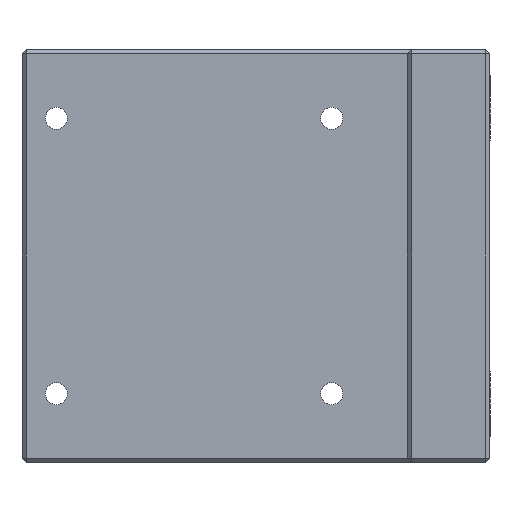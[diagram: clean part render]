
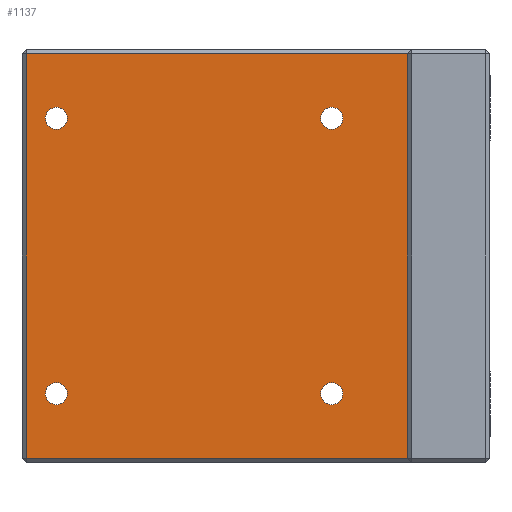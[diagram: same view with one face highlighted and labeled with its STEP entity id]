
A CAD part, left-side view. The second image highlights one B-rep face of the part: STEP entity #1137.
In plain terms, the highlighted planar face has unit normal (-1, 0, 0).
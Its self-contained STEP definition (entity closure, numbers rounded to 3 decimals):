
#11 = VERTEX_POINT ( 'NONE', #745 ) ;
#24 = CIRCLE ( 'NONE', #378, 0.8 ) ;
#52 = ORIENTED_EDGE ( 'NONE', *, *, #664, .T. ) ;
#53 = EDGE_CURVE ( 'NONE', #1014, #663, #1289, .T. ) ;
#73 = DIRECTION ( 'NONE',  ( 0., 1., 0. ) ) ;
#75 = EDGE_LOOP ( 'NONE', ( #954, #52, #1165, #1103 ) ) ;
#89 = ORIENTED_EDGE ( 'NONE', *, *, #946, .T. ) ;
#112 = CIRCLE ( 'NONE', #991, 0.8 ) ;
#128 = AXIS2_PLACEMENT_3D ( 'NONE', #778, #1082, #1298 ) ;
#140 = DIRECTION ( 'NONE',  ( 1., 0., 0. ) ) ;
#142 = DIRECTION ( 'NONE',  ( 0., 1., 0. ) ) ;
#147 = CIRCLE ( 'NONE', #191, 0.8 ) ;
#149 = CARTESIAN_POINT ( 'NONE',  ( 14., 11.5, -10. ) ) ;
#156 = DIRECTION ( 'NONE',  ( 1., 0., 0. ) ) ;
#157 = CARTESIAN_POINT ( 'NONE',  ( 14., 33.7, 14.7 ) ) ;
#180 = FACE_BOUND ( 'NONE', #467, .T. ) ;
#181 = ORIENTED_EDGE ( 'NONE', *, *, #940, .T. ) ;
#188 = CIRCLE ( 'NONE', #786, 0.8 ) ;
#191 = AXIS2_PLACEMENT_3D ( 'NONE', #838, #949, #331 ) ;
#195 = EDGE_CURVE ( 'NONE', #11, #1246, #112, .T. ) ;
#197 = CARTESIAN_POINT ( 'NONE',  ( 14., 11.5, -10.8 ) ) ;
#217 = CARTESIAN_POINT ( 'NONE',  ( 14., 31.5, 10. ) ) ;
#235 = CARTESIAN_POINT ( 'NONE',  ( 14., 31.5, -10. ) ) ;
#237 = ORIENTED_EDGE ( 'NONE', *, *, #195, .T. ) ;
#238 = DIRECTION ( 'NONE',  ( 0., 0., -1. ) ) ;
#245 = EDGE_CURVE ( 'NONE', #1246, #11, #188, .T. ) ;
#277 = DIRECTION ( 'NONE',  ( 0., 1., 0. ) ) ;
#287 = ORIENTED_EDGE ( 'NONE', *, *, #53, .T. ) ;
#298 = CARTESIAN_POINT ( 'NONE',  ( 14., 11.5, 10. ) ) ;
#315 = VECTOR ( 'NONE', #238, 1000. ) ;
#331 = DIRECTION ( 'NONE',  ( 0., 1., 0. ) ) ;
#336 = ORIENTED_EDGE ( 'NONE', *, *, #245, .T. ) ;
#351 = CARTESIAN_POINT ( 'NONE',  ( 14., 31.5, -9.2 ) ) ;
#367 = FACE_BOUND ( 'NONE', #1258, .T. ) ;
#374 = PLANE ( 'NONE',  #128 ) ;
#378 = AXIS2_PLACEMENT_3D ( 'NONE', #217, #411, #1127 ) ;
#384 = VERTEX_POINT ( 'NONE', #828 ) ;
#394 = EDGE_CURVE ( 'NONE', #1003, #384, #24, .T. ) ;
#399 = CARTESIAN_POINT ( 'NONE',  ( 14., 11.5, -10. ) ) ;
#411 = DIRECTION ( 'NONE',  ( 1., 0., 0. ) ) ;
#415 = LINE ( 'NONE', #715, #575 ) ;
#422 = AXIS2_PLACEMENT_3D ( 'NONE', #399, #706, #277 ) ;
#425 = VERTEX_POINT ( 'NONE', #1222 ) ;
#428 = EDGE_CURVE ( 'NONE', #460, #1297, #935, .T. ) ;
#434 = EDGE_CURVE ( 'NONE', #1041, #1297, #415, .T. ) ;
#437 = LINE ( 'NONE', #1142, #315 ) ;
#440 = CIRCLE ( 'NONE', #422, 0.8 ) ;
#451 = EDGE_LOOP ( 'NONE', ( #287, #1057 ) ) ;
#460 = VERTEX_POINT ( 'NONE', #728 ) ;
#467 = EDGE_LOOP ( 'NONE', ( #537, #181 ) ) ;
#500 = DIRECTION ( 'NONE',  ( 0., 1., 0. ) ) ;
#537 = ORIENTED_EDGE ( 'NONE', *, *, #686, .T. ) ;
#574 = CARTESIAN_POINT ( 'NONE',  ( 14., 31.5, -10. ) ) ;
#575 = VECTOR ( 'NONE', #1115, 1000. ) ;
#597 = VECTOR ( 'NONE', #73, 1000. ) ;
#599 = AXIS2_PLACEMENT_3D ( 'NONE', #149, #156, #1163 ) ;
#606 = CARTESIAN_POINT ( 'NONE',  ( 14., 34., 14.7 ) ) ;
#635 = VECTOR ( 'NONE', #723, 1000. ) ;
#644 = CARTESIAN_POINT ( 'NONE',  ( 14., 33.7, -14.7 ) ) ;
#663 = VERTEX_POINT ( 'NONE', #798 ) ;
#664 = EDGE_CURVE ( 'NONE', #460, #1197, #897, .T. ) ;
#686 = EDGE_CURVE ( 'NONE', #719, #425, #440, .T. ) ;
#693 = DIRECTION ( 'NONE',  ( 0., 1., 0. ) ) ;
#706 = DIRECTION ( 'NONE',  ( 1., 0., 0. ) ) ;
#708 = DIRECTION ( 'NONE',  ( 1., 0., 0. ) ) ;
#715 = CARTESIAN_POINT ( 'NONE',  ( 14., 34., -14.7 ) ) ;
#719 = VERTEX_POINT ( 'NONE', #197 ) ;
#723 = DIRECTION ( 'NONE',  ( 0., 0., -1. ) ) ;
#728 = CARTESIAN_POINT ( 'NONE',  ( 14., 6., 14.7 ) ) ;
#739 = CIRCLE ( 'NONE', #760, 0.8 ) ;
#745 = CARTESIAN_POINT ( 'NONE',  ( 14., 31.5, -10.8 ) ) ;
#753 = CARTESIAN_POINT ( 'NONE',  ( 14., 31.5, 10. ) ) ;
#760 = AXIS2_PLACEMENT_3D ( 'NONE', #753, #140, #1042 ) ;
#763 = CARTESIAN_POINT ( 'NONE',  ( 14., 31.5, 9.2 ) ) ;
#778 = CARTESIAN_POINT ( 'NONE',  ( 14., 34., 15. ) ) ;
#786 = AXIS2_PLACEMENT_3D ( 'NONE', #574, #906, #693 ) ;
#798 = CARTESIAN_POINT ( 'NONE',  ( 14., 11.5, 10.8 ) ) ;
#828 = CARTESIAN_POINT ( 'NONE',  ( 14., 31.5, 10.8 ) ) ;
#832 = CARTESIAN_POINT ( 'NONE',  ( 14., 11.5, 9.2 ) ) ;
#838 = CARTESIAN_POINT ( 'NONE',  ( 14., 11.5, 10. ) ) ;
#897 = LINE ( 'NONE', #606, #597 ) ;
#900 = FACE_BOUND ( 'NONE', #451, .T. ) ;
#906 = DIRECTION ( 'NONE',  ( 1., 0., 0. ) ) ;
#930 = AXIS2_PLACEMENT_3D ( 'NONE', #298, #708, #500 ) ;
#935 = LINE ( 'NONE', #1215, #635 ) ;
#940 = EDGE_CURVE ( 'NONE', #425, #719, #975, .T. ) ;
#946 = EDGE_CURVE ( 'NONE', #384, #1003, #739, .T. ) ;
#949 = DIRECTION ( 'NONE',  ( 1., 0., 0. ) ) ;
#954 = ORIENTED_EDGE ( 'NONE', *, *, #428, .F. ) ;
#956 = EDGE_CURVE ( 'NONE', #663, #1014, #147, .T. ) ;
#975 = CIRCLE ( 'NONE', #599, 0.8 ) ;
#991 = AXIS2_PLACEMENT_3D ( 'NONE', #235, #1266, #142 ) ;
#998 = CARTESIAN_POINT ( 'NONE',  ( 14., 6., -14.7 ) ) ;
#1003 = VERTEX_POINT ( 'NONE', #763 ) ;
#1014 = VERTEX_POINT ( 'NONE', #832 ) ;
#1038 = EDGE_CURVE ( 'NONE', #1197, #1041, #437, .T. ) ;
#1041 = VERTEX_POINT ( 'NONE', #644 ) ;
#1042 = DIRECTION ( 'NONE',  ( 0., 1., 0. ) ) ;
#1057 = ORIENTED_EDGE ( 'NONE', *, *, #956, .T. ) ;
#1082 = DIRECTION ( 'NONE',  ( 1., 0., 0. ) ) ;
#1103 = ORIENTED_EDGE ( 'NONE', *, *, #434, .T. ) ;
#1115 = DIRECTION ( 'NONE',  ( 0., -1., 0. ) ) ;
#1127 = DIRECTION ( 'NONE',  ( 0., 1., 0. ) ) ;
#1137 = ADVANCED_FACE ( 'NONE', ( #1186, #1269, #180, #367, #900 ), #374, .F. ) ;
#1142 = CARTESIAN_POINT ( 'NONE',  ( 14., 33.7, 15. ) ) ;
#1163 = DIRECTION ( 'NONE',  ( 0., 1., 0. ) ) ;
#1165 = ORIENTED_EDGE ( 'NONE', *, *, #1038, .T. ) ;
#1186 = FACE_OUTER_BOUND ( 'NONE', #75, .T. ) ;
#1197 = VERTEX_POINT ( 'NONE', #157 ) ;
#1205 = ORIENTED_EDGE ( 'NONE', *, *, #394, .T. ) ;
#1215 = CARTESIAN_POINT ( 'NONE',  ( 14., 6., 15. ) ) ;
#1222 = CARTESIAN_POINT ( 'NONE',  ( 14., 11.5, -9.2 ) ) ;
#1246 = VERTEX_POINT ( 'NONE', #351 ) ;
#1258 = EDGE_LOOP ( 'NONE', ( #237, #336 ) ) ;
#1263 = EDGE_LOOP ( 'NONE', ( #1205, #89 ) ) ;
#1266 = DIRECTION ( 'NONE',  ( 1., 0., 0. ) ) ;
#1269 = FACE_BOUND ( 'NONE', #1263, .T. ) ;
#1289 = CIRCLE ( 'NONE', #930, 0.8 ) ;
#1297 = VERTEX_POINT ( 'NONE', #998 ) ;
#1298 = DIRECTION ( 'NONE',  ( 0., 1., 0. ) ) ;
